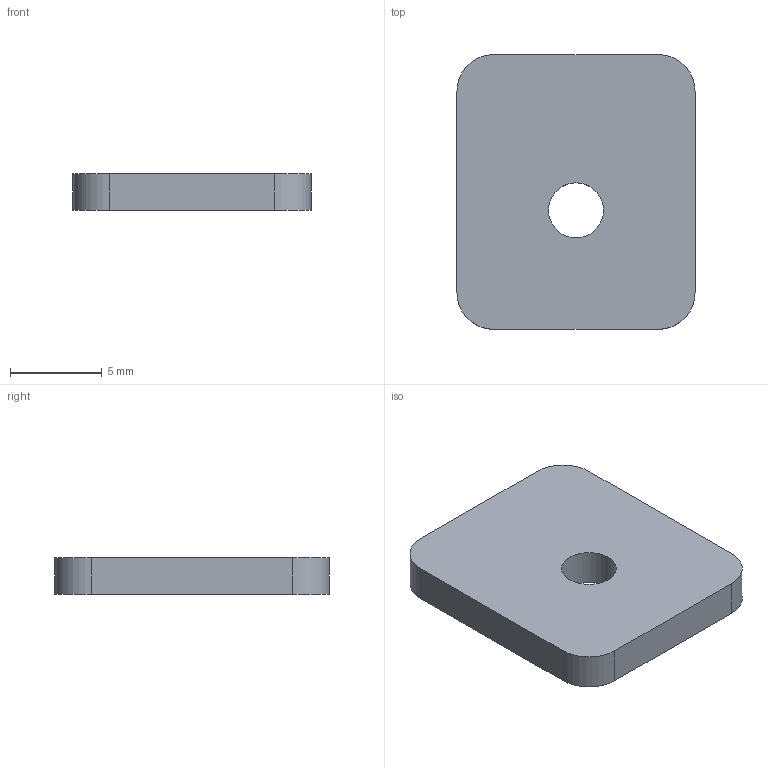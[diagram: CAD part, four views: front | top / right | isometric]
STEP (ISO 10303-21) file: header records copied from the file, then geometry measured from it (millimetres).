
FILE_DESCRIPTION(/* description */ (''),/* implementation_level */ '2;1');
FILE_NAME(/* name */ '13_Microphone_seat.step',/* time_stamp */ '2026-09-08T11:10:43-07:00',/* author */ (''),/* organization */ (''),/* preprocessor_version */ 'ST-DEVELOPER v20.1',/* originating_system */ 'Autodesk Translation Framework v15.8.0.0',/* authorisation */ '');
FILE_SCHEMA (('AUTOMOTIVE_DESIGN { 1 0 10303 214 3 1 1 }'));
Length unit declared in the file: centimetre
Products named in the file (1): 2026-09-08-11-10-43-562
Bounding box: 13 x 15 x 2 mm (x, y, z)
Volume: 369 mm3; surface area: 493 mm2
Topology: 1 solids, 1 shells, 11 faces, 27 edges, 18 vertices
Faces by surface type: plane 6, cylinder 5
Full cylindrical faces by diameter (mm): 3 x1
Entity records: 375 total; most frequent: DIRECTION 61, CARTESIAN_POINT 57, ORIENTED_EDGE 54, EDGE_CURVE 27, AXIS2_PLACEMENT_3D 22, VERTEX_POINT 18, LINE 17, VECTOR 17
